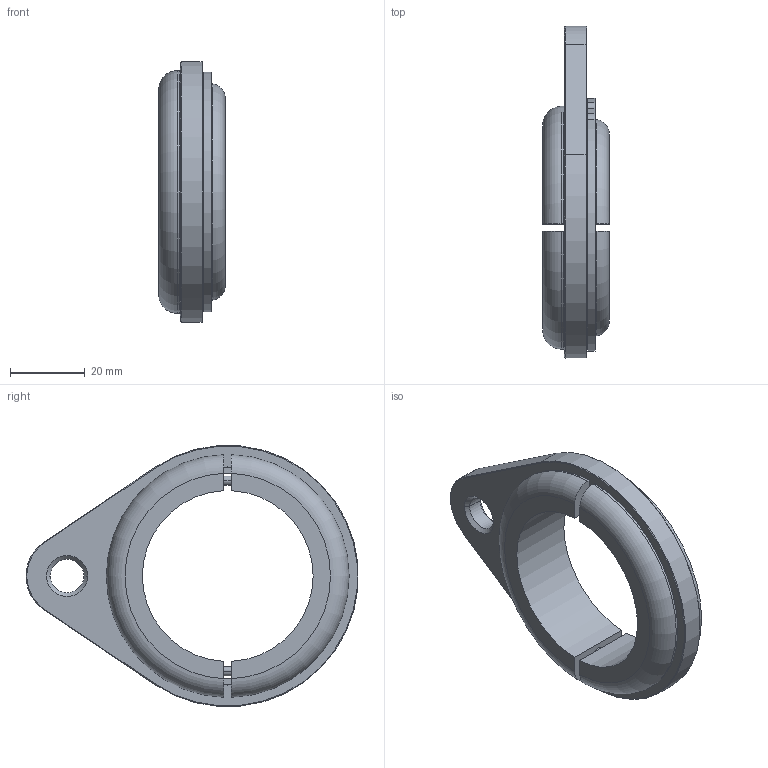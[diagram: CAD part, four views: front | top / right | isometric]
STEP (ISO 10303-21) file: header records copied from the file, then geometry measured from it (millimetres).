
FILE_DESCRIPTION((''),'2;1');
FILE_NAME('6153974130_ASM','2012-10-31T',('greextsd'),(''),'PRO/ENGINEER BY PARAMETRIC TECHNOLOGY CORPORATION, 2010330','PRO/ENGINEER BY PARAMETRIC TECHNOLOGY CORPORATION, 2010330','');
FILE_SCHEMA(('AUTOMOTIVE_DESIGN_CC2 { 1 2 10303 214 -1 1 5 2 }'));
Length unit declared in the file: millimetre
Products named in the file (5): 6155710840; 6155710670; 6156880550; 6156161470; 6153974130_ASM
Assembly tree (6 placements, depth 2):
  6153974130_ASM
    6155710840  x2
    6155710670
    6156880550
    6156161470  x2
Bounding box: 17.8 x 88.87 x 69.81 mm (x, y, z)
Volume: 30754.4 mm3; surface area: 18474.7 mm2
Topology: 6 solids, 6 shells, 126 faces, 300 edges, 192 vertices
Faces by surface type: plane 50, cylinder 46, cone 22, torus 8
Entity records: 3258 total; most frequent: CARTESIAN_POINT 586, DIRECTION 464, ORIENTED_EDGE 404, EDGE_CURVE 202, AXIS2_PLACEMENT_3D 180, PRESENTATION_STYLE_ASSIGNMENT 157, STYLED_ITEM 157, CURVE_STYLE 154
